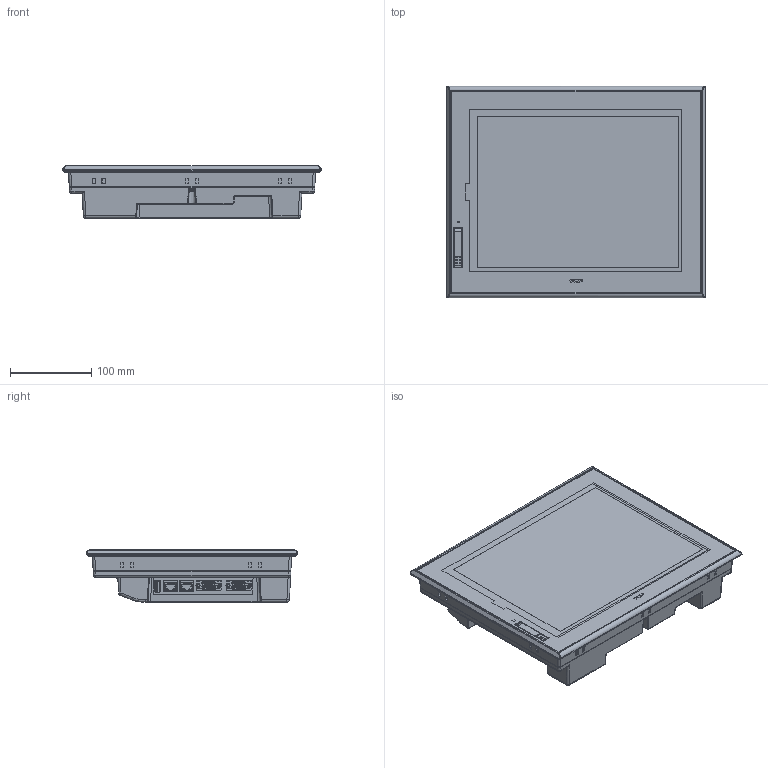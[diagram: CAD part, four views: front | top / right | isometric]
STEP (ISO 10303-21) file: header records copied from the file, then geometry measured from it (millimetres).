
FILE_DESCRIPTION((''),'2;1');
FILE_NAME('TOP-RX12_T0','2016-01-11T',('bckim'),(''),'CREO PARAMETRIC BY PTC INC, 2015290','CREO PARAMETRIC BY PTC INC, 2015290','');
FILE_SCHEMA(('CONFIG_CONTROL_DESIGN'));
Products named in the file (1): TOP-RX12_T0
Bounding box: 320 x 261 x 64.7 mm (x, y, z)
Volume: 3357616.3 mm3; surface area: 599113.7 mm2
Topology: 1 solids, 32 shells, 5011 faces, 13844 edges, 8985 vertices
Faces by surface type: plane 3421, cylinder 946, bspline 204, cone 203, torus 159, sphere 65, extrusion 13
Entity records: 171634 total; most frequent: CARTESIAN_POINT 45303, ORIENTED_EDGE 27664, DIRECTION 24108, EDGE_CURVE 13832, VECTOR 10130, LINE 10117, VERTEX_POINT 8985, AXIS2_PLACEMENT_3D 6989
